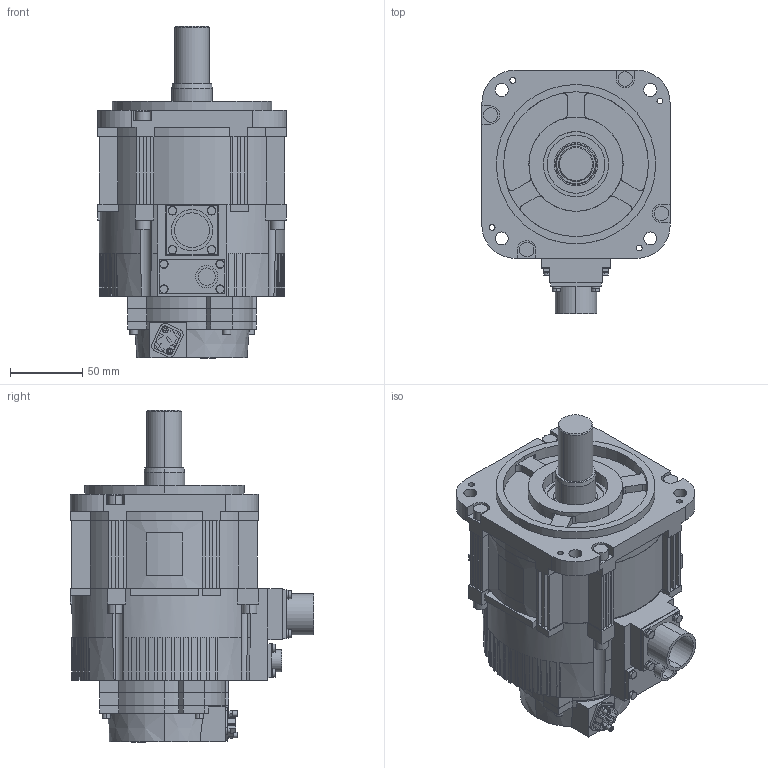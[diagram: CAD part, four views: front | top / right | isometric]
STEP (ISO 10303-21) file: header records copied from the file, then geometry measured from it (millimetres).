
FILE_DESCRIPTION (( 'STEP AP214' ), '1' );
FILE_NAME ('sgmxg_09aua2ca1.STEP', '2021-08-19T01:32:53', ( '' ), ( '' ), 'SwSTEP 2.0', 'SolidWorks 2016', '' );
FILE_SCHEMA (( 'AUTOMOTIVE_DESIGN' ));
Length unit declared in the file: millimetre
Products named in the file (1): sgmxg_09aua2ca1
Bounding box: 130 x 168.2 x 229.2 mm (x, y, z)
Volume: 2058724.9 mm3; surface area: 144138.4 mm2
Topology: 1 solids, 1 shells, 763 faces, 2081 edges, 1380 vertices
Faces by surface type: plane 498, cylinder 218, cone 47
Entity records: 32865 total; most frequent: CARTESIAN_POINT 4666, ORIENTED_EDGE 4162, DIRECTION 4130, EDGE_CURVE 2081, LINE 1396, VECTOR 1396, VERTEX_POINT 1380, AXIS2_PLACEMENT_3D 1367
